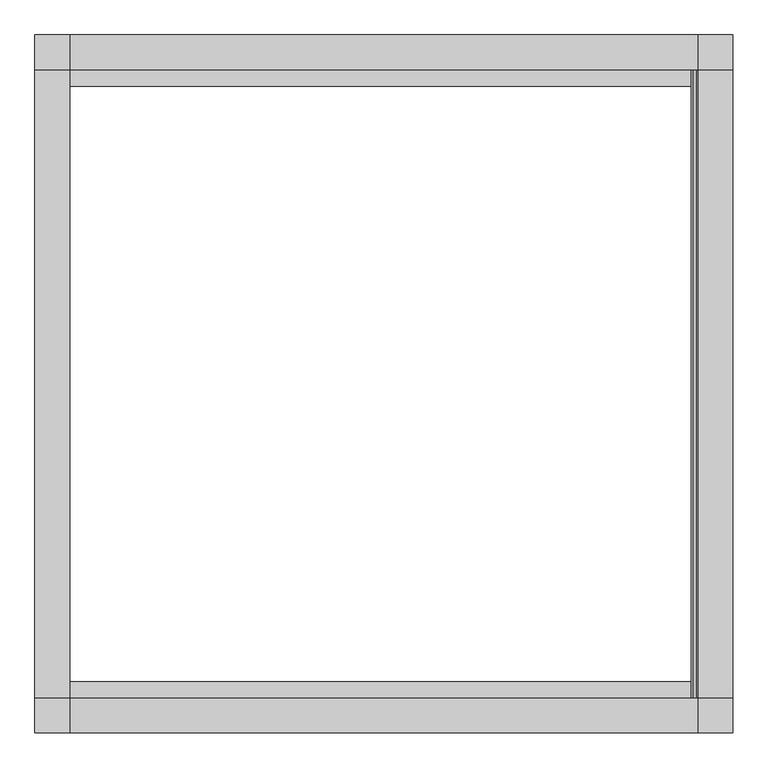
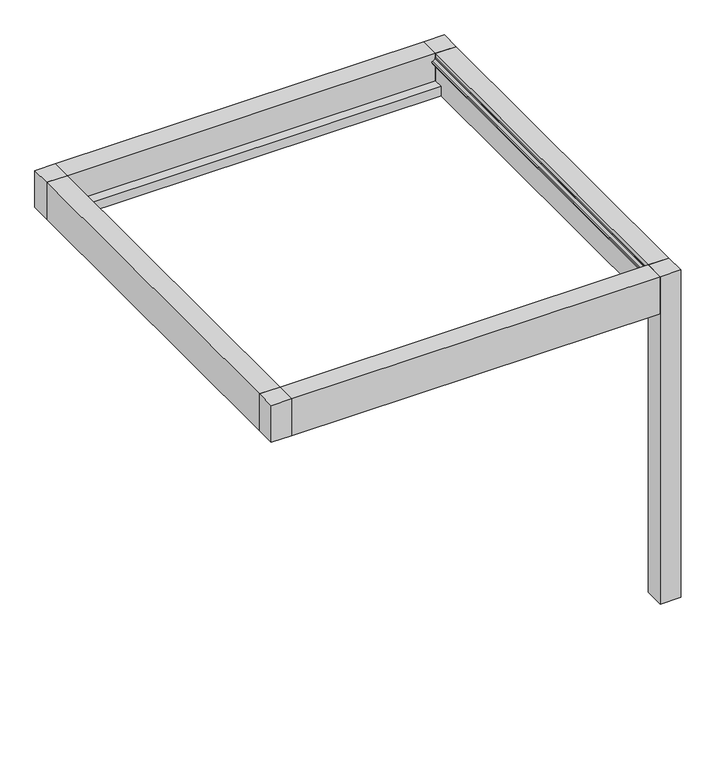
"""IFC4 building model written with IfcOpenShell, lengths in millimetres: proxy geometry, Renson_Amani_Patio_Cover : Renson_Amani_Patio_Cover."""

from ifc_helpers import new_model, si_unit, frame, origin, origin_with_axes, place, context, project, spatial, polyline, outline, extrude, source, transform, mapped, element, save


def generic_models_99ac2013(model_context):
    return source(origin(), model_context, "Body", "SweptSolid", [
        extrude(outline(polyline([(1500.0, 1500.0), (1500.0, 1350.0), (1350.0, 1350.0), (1350.0, 1500.0), (1500.0, 1500.0)])), frame((0.0, 0.0, 2250.0), z_axis=(0.0, 0.0, 1.0), x_axis=(1.0, 0.0, 0.0)), (0.0, 0.0, 1.0), 285.0),
        extrude(outline(polyline([(-1350.0, 1500.0), (-1350.0, 1350.0), (-1500.0, 1350.0), (-1500.0, 1500.0), (-1350.0, 1500.0)])), frame((0.0, 0.0, 2250.0), z_axis=(0.0, 0.0, 1.0), x_axis=(1.0, 0.0, 0.0)), (0.0, 0.0, 1.0), 285.0),
        extrude(outline(polyline([(-1350.0, -1500.0), (-1500.0, -1500.0), (-1500.0, -1350.0), (-1350.0, -1350.0), (-1350.0, -1500.0)])), frame((0.0, 0.0, 2250.0), z_axis=(0.0, 0.0, 1.0), x_axis=(1.0, 0.0, 0.0)), (0.0, 0.0, 1.0), 285.0),
        extrude(outline(polyline([(1500.0, -1350.0), (1500.0, -1500.0), (1350.0, -1500.0), (1350.0, -1350.0), (1500.0, -1350.0)])), origin_with_axes(), (0.0, 0.0, 1.0), 2535.0),
        extrude(outline(polyline([(-1350.0, -1350.0), (-1500.0, -1350.0), (-1500.0, 1350.0), (-1350.0, 1350.0), (-1350.0, -1350.0)])), frame((0.0, 0.0, 2250.0), z_axis=(0.0, 0.0, 1.0), x_axis=(1.0, 0.0, 0.0)), (0.0, 0.0, 1.0), 285.0),
        extrude(outline(polyline([(2535.0, 1500.0), (2535.0, 1350.0), (2504.6904658, 1350.0), (2504.2449277, 1345.0), (2496.400763, 1345.0), (2480.6555802, 1329.2544156), (2480.6555802, 1319.9090324), (2466.6559373, 1323.6603211), (2466.6559373, 1350.0), (2250.0, 1350.0), (2250.0, 1500.0), (2535.0, 1500.0)])), frame((0.0, -1350.0, 0.0), z_axis=(0.0, 1.0, 0.0), x_axis=(0.0, 0.0, 1.0)), (0.0, 0.0, 1.0), 2700.0),
        extrude(outline(polyline([(-1350.0, 2535.0), (-1350.0, 2322.0), (-1280.0000001, 2322.0), (-1280.0000001, 2250.0), (-1500.0, 2250.0), (-1500.0, 2535.0), (-1350.0, 2535.0)])), frame((-1350.0, 0.0, 0.0), z_axis=(1.0, 0.0, 0.0), x_axis=(0.0, 1.0, 0.0)), (0.0, 0.0, 1.0), 2700.0),
        extrude(outline(polyline([(1500.0, 2250.0), (1280.0000001, 2250.0), (1280.0000001, 2322.0), (1350.0, 2322.0), (1350.0, 2535.0), (1500.0, 2535.0), (1500.0, 2250.0)])), frame((-1350.0, 0.0, 0.0), z_axis=(1.0, 0.0, 0.0), x_axis=(0.0, 1.0, 0.0)), (0.0, 0.0, 1.0), 2700.0),
    ])


if __name__ == "__main__":
    model = new_model("IFC4")
    model_context = context("Model", 3, world=origin())
    ifc_project = project(units=[si_unit("LENGTHUNIT", "METRE", prefix="MILLI")], contexts=[model_context])
    site = spatial("IfcSite", under=ifc_project)
    building = spatial("IfcBuilding", under=site)
    placement = place(None, origin())
    generic_models_shape = generic_models_99ac2013(model_context)
    element("IfcBuildingElementProxy", 1, Name="Renson_Amani_Patio_Cover : Renson_Amani_Patio_Cover", ObjectType="Renson_Amani_Patio_Cover : Renson_Amani_Patio_Cover", at=placement, inside=building, context=model_context, shape_type="MappedRepresentation", body=[
        mapped(generic_models_shape, transform((0.0, 0.0, 0.0), x_axis=(1.0, 0.0, 0.0), y_axis=(0.0, 1.0, 0.0), z_axis=(0.0, 0.0, 1.0))),
    ])
    save(model, "model.ifc")
